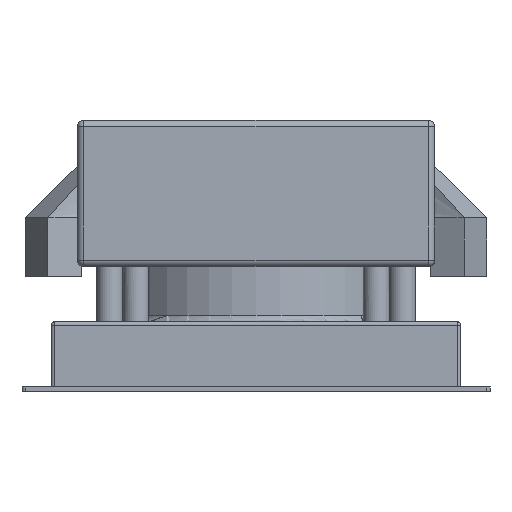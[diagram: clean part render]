
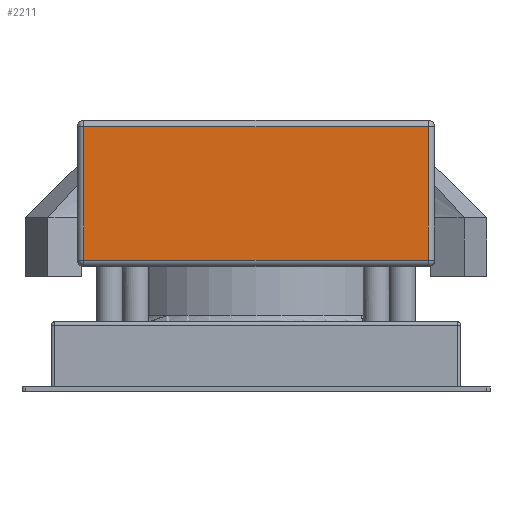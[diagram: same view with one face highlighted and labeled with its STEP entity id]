
A CAD part, front view. The second image highlights one B-rep face of the part: STEP entity #2211.
In plain terms, the highlighted planar face has unit normal (0, -1, 0).
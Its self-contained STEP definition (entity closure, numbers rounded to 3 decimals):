
#207=PLANE('',#2421);
#318=FACE_OUTER_BOUND('',#455,.T.);
#455=EDGE_LOOP('',(#1747,#1748,#1749,#1750));
#591=LINE('',#3363,#799);
#595=LINE('',#3372,#803);
#598=LINE('',#3380,#806);
#602=LINE('',#3389,#810);
#799=VECTOR('',#2738,10.);
#803=VECTOR('',#2748,10.);
#806=VECTOR('',#2757,10.);
#810=VECTOR('',#2767,10.);
#1099=VERTEX_POINT('',#3331);
#1100=VERTEX_POINT('',#3335);
#1104=VERTEX_POINT('',#3343);
#1108=VERTEX_POINT('',#3355);
#1318=EDGE_CURVE('',#1108,#1104,#591,.T.);
#1323=EDGE_CURVE('',#1100,#1108,#595,.T.);
#1327=EDGE_CURVE('',#1104,#1099,#598,.T.);
#1332=EDGE_CURVE('',#1099,#1100,#602,.T.);
#1747=ORIENTED_EDGE('',*,*,#1318,.T.);
#1748=ORIENTED_EDGE('',*,*,#1327,.T.);
#1749=ORIENTED_EDGE('',*,*,#1332,.T.);
#1750=ORIENTED_EDGE('',*,*,#1323,.T.);
#2211=ADVANCED_FACE('',(#318),#207,.F.);
#2421=AXIS2_PLACEMENT_3D('',#3449,#2824,#2825);
#2738=DIRECTION('',(-1.,0.,0.));
#2748=DIRECTION('',(0.,0.,1.));
#2757=DIRECTION('',(0.,0.,-1.));
#2767=DIRECTION('',(1.,0.,0.));
#2824=DIRECTION('center_axis',(0.,1.,0.));
#2825=DIRECTION('ref_axis',(1.,0.,0.));
#3331=CARTESIAN_POINT('',(-43.,-120.,40.5));
#3335=CARTESIAN_POINT('',(63.,-120.,40.5));
#3343=CARTESIAN_POINT('',(-43.,-120.,81.5));
#3355=CARTESIAN_POINT('',(63.,-120.,81.5));
#3363=CARTESIAN_POINT('',(-17.5,-120.,81.5));
#3372=CARTESIAN_POINT('',(63.,-120.,83.5));
#3380=CARTESIAN_POINT('',(-43.,-120.,83.5));
#3389=CARTESIAN_POINT('',(-17.5,-120.,40.5));
#3449=CARTESIAN_POINT('Origin',(-45.,-120.,83.5));
